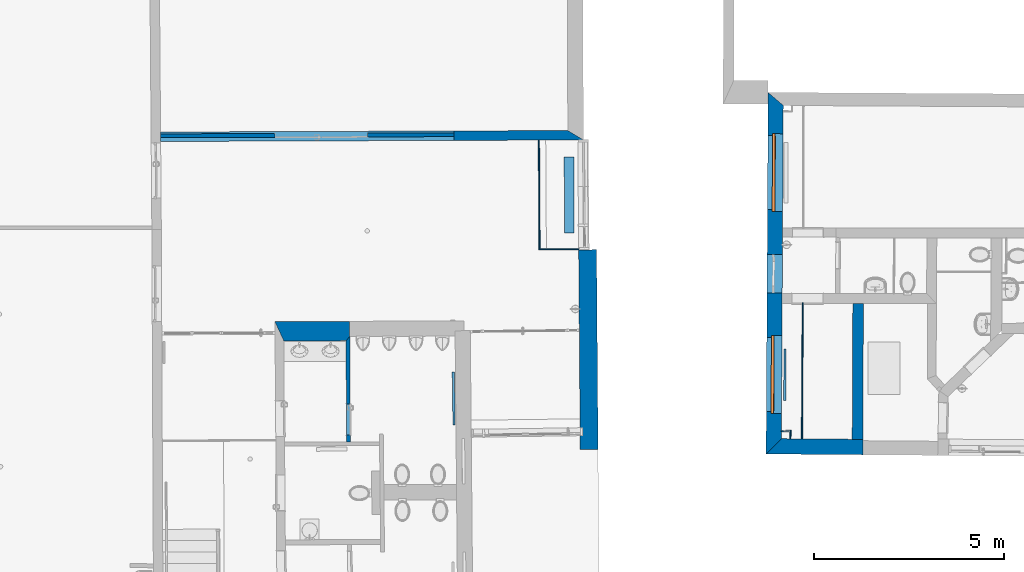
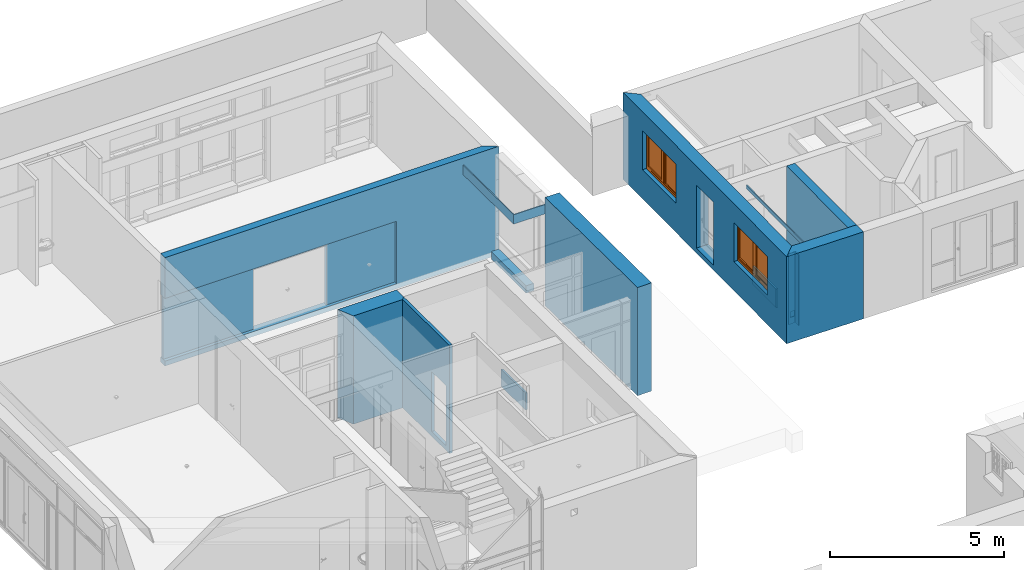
# One storey, part 33 of 196: 16 walls, 2 proxies, 7 openings.
"""IFC2X3 building model written with IfcOpenShell, lengths in metres."""

from ifc_helpers import new_model, entity, si_unit, converted_unit, derived_unit, money_unit, direction, frame, origin_with_axes, origin_2d_with_axis, place, context, subcontext, project, spatial, polyline, rectangle, outline, extrude, faceted_brep, source, transform, mapped, material, layer, layer_set, layer_usage, type_object, element, fill, save


model = new_model("IFC2X3")

# Units and contexts
model_context = context("Model", 3, precision=1e-05, world=origin_with_axes(), true_north=direction((0.0, 1.0)))
body_context = subcontext(model_context, "Body", "Model", "MODEL_VIEW")
ifc_project = project(units=[si_unit("LENGTHUNIT", "METRE"), si_unit("AREAUNIT", "SQUARE_METRE"), si_unit("VOLUMEUNIT", "CUBIC_METRE"), converted_unit("PLANEANGLEUNIT", "DEGREE", entity("IfcPlaneAngleMeasure", 0.0174532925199), si_unit("PLANEANGLEUNIT", "RADIAN"), dimensions=[0, 0, 0, 0, 0, 0, 0]), money_unit("EUR"), converted_unit("TIMEUNIT", "Year", entity("IfcTimeMeasure", 31556926.0), si_unit("TIMEUNIT", "SECOND"), dimensions=[0, 0, 1, 0, 0, 0, 0]), si_unit("MASSUNIT", "GRAM", prefix="KILO"), si_unit("THERMODYNAMICTEMPERATUREUNIT", "DEGREE_CELSIUS"), si_unit("LUMINOUSINTENSITYUNIT", "LUMEN"), si_unit("ENERGYUNIT", "JOULE", prefix="MEGA"), derived_unit("THERMALCONDUCTANCEUNIT", [(si_unit("POWERUNIT", "WATT"), 1), (si_unit("LENGTHUNIT", "METRE"), -1), (si_unit("THERMODYNAMICTEMPERATUREUNIT", "KELVIN"), -1)]), derived_unit("SPECIFICHEATCAPACITYUNIT", [(si_unit("ENERGYUNIT", "JOULE"), 1), (si_unit("MASSUNIT", "GRAM", prefix="KILO"), -1), (si_unit("THERMODYNAMICTEMPERATUREUNIT", "KELVIN"), -1)]), derived_unit("MASSDENSITYUNIT", [(si_unit("MASSUNIT", "GRAM", prefix="KILO"), 1), (si_unit("VOLUMEUNIT", "CUBIC_METRE"), -1)])], contexts=[model_context])

# Site, building, storey
site_placement = place(None, origin_with_axes())
site = spatial("IfcSite", under=ifc_project, at=site_placement, Name="Gelände", CompositionType="ELEMENT")
building_placement = place(site_placement, origin_with_axes())
building = spatial("IfcBuilding", under=site, at=building_placement, Name="Gebäude", CompositionType="ELEMENT")
storey_placement = place(building_placement, frame((0.0, 0.0, -3.0), z_axis=(0.0, 0.0, 1.0), x_axis=(1.0, 0.0, 0.0)))
storey = spatial("IfcBuildingStorey", under=building, at=storey_placement, Name="KELLERGESCHOSS", CompositionType="ELEMENT", Elevation=-3.0)

# Wall
ifc_material_1 = material(Name="05_ALLGEMEIN - TRAGENDE BAUTEILE")
ifc_layer_1 = layer(ifc_material_1, 0.47, ventilated="UNKNOWN")
ifc_layer_set_1 = layer_set([ifc_layer_1], Name="05_ALLGEMEIN - TRAGENDE BAUTEILE 0.47")
ifc_layer_usage_1 = layer_usage(ifc_layer_set_1, "AXIS2", "NEGATIVE", 0.47)
wall_type_1 = type_object("IfcWallType", Name="05_ALLGEMEIN - TRAGENDE BAUTEILE 470", PredefinedType="ELEMENTEDWALL")
wall_1_placement = place(storey_placement, frame((-15.2198299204, 39.2119687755, 0.25), z_axis=(0.0, 0.0, 1.0), x_axis=(-0.00771703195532, 0.999970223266, 0.0)))
element("IfcWallStandardCase", 1, at=wall_1_placement, inside=storey, type_object=wall_type_1, material=ifc_layer_usage_1, Name="Wand-030", ObjectType="ELEMENTEDWALL", context=body_context, shape_type="SweptSolid", body=[
    extrude(outline(polyline([(0.0, 0.0), (5.25333441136, 0.0), (5.25333441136, 0.47), (0.0, 0.47), (0.0, 0.0)])), origin_with_axes(), (0.0, 0.0, 1.0), 3.81),
])

# Wall, openings, proxies
ifc_layer_2 = layer(ifc_material_1, 0.4, ventilated="UNKNOWN")
ifc_layer_set_2 = layer_set([ifc_layer_2], Name="05_ALLGEMEIN - TRAGENDE BAUTEILE 0.4")
ifc_layer_usage_2 = layer_usage(ifc_layer_set_2, "AXIS2", "NEGATIVE", 0.4)
wall_type_2 = type_object("IfcWallType", Name="05_ALLGEMEIN - TRAGENDE BAUTEILE 400", PredefinedType="ELEMENTEDWALL")
wall_2_placement = place(storey_placement, frame((-10.7453683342, 48.2641429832, 0.44), z_axis=(0.0, 0.0, 1.0), x_axis=(-0.00559462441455, -0.999984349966, 0.0)))
wall_2 = element("IfcWallStandardCase", 2, at=wall_2_placement, inside=storey, type_object=wall_type_2, material=ifc_layer_usage_2, Name="Wand-030", ObjectType="ELEMENTEDWALL", context=body_context, shape_type="SweptSolid", body=[
    extrude(outline(polyline([(-0.340000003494, 0.0), (9.17505866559, 0.0), (8.7711165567, 0.4), (5.73473201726e-05, 0.4), (-0.340000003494, 0.0)])), origin_with_axes(), (0.0, 0.0, 1.0), 3.06),
])
opening_1_placement = place(wall_2_placement, frame((7.08337725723, 0.0, 1.02522516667), z_axis=(0.0, 0.0, 1.0), x_axis=(1.0, 0.0, 0.0)))
opening_1 = element("IfcOpeningElement", 3, at=opening_1_placement, cuts=wall_2, Name="Fenster-016", context=body_context, shape_type="SweptSolid", body=[
    extrude(rectangle(XDim=2.04862552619, YDim=1.417031, at=origin_2d_with_axis()), frame((0.0, 0.121848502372, 0.7085155), z_axis=(0.0, -1.0, 0.0), x_axis=(1.0, 0.0, 0.0)), (0.0, 0.0, -1.0), 0.678151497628),
    extrude(rectangle(XDim=1.94862552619, YDim=1.367031, at=origin_2d_with_axis()), frame((0.0, 0.121848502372, 0.6835155), z_axis=(0.0, 1.0, 0.0), x_axis=(1.0, 0.0, 0.0)), (0.0, 0.0, -1.0), 0.521848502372),
])
opening_2_placement = place(wall_2_placement, frame((1.76929638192, 0.0, 1.02522516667), z_axis=(0.0, 0.0, 1.0), x_axis=(1.0, 0.0, 0.0)))
opening_2 = element("IfcOpeningElement", 4, at=opening_2_placement, cuts=wall_2, Name="Fenster-016", context=body_context, shape_type="SweptSolid", body=[
    extrude(rectangle(XDim=2.04862552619, YDim=1.417031, at=origin_2d_with_axis()), frame((0.0, 0.121848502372, 0.7085155), z_axis=(0.0, -1.0, 0.0), x_axis=(1.0, 0.0, 0.0)), (0.0, 0.0, -1.0), 0.678151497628),
    extrude(rectangle(XDim=1.94862552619, YDim=1.367031, at=origin_2d_with_axis()), frame((0.0, 0.121848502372, 0.6835155), z_axis=(0.0, 1.0, 0.0), x_axis=(1.0, 0.0, 0.0)), (0.0, 0.0, -1.0), 0.521848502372),
])
opening_3_placement = place(wall_2_placement, frame((4.42710408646, 0.0, 0.17), z_axis=(0.0, 0.0, 1.0), x_axis=(1.0, 0.0, 0.0)))
element("IfcOpeningElement", 5, at=opening_3_placement, cuts=wall_2, Name="Tür-022", context=body_context, shape_type="SweptSolid", body=[
    extrude(rectangle(XDim=1.00943520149, YDim=2.22532316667, at=origin_2d_with_axis()), frame((0.0, 0.13, 1.11266158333), z_axis=(0.0, -1.0, 0.0), x_axis=(1.0, 0.0, 0.0)), (0.0, 0.0, -1.0), 0.67),
    extrude(rectangle(XDim=1.00943520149, YDim=2.22532316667, at=origin_2d_with_axis()), frame((0.0, 0.13, 1.11266158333), z_axis=(0.0, 1.0, 0.0), x_axis=(1.0, 0.0, 0.0)), (0.0, 0.0, -1.0), 0.53),
])
building_element_proxy_type = type_object("IfcBuildingElementProxyType", Name="2-Flügelfenster 1+1 25", PredefinedType="NOTDEFINED")
shared_shape = source(origin_with_axes(), body_context, "Body", "Brep", [
    faceted_brep([(-1.0243127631, -0.07, 0.0), (-1.0243127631, 0.0, 0.0), (-0.944312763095, 0.0, 0.08), (-0.944312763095, -0.07, 0.08), (-1.0243127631, -0.07, 1.417031), (-1.0243127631, 0.0, 1.417031), (-0.944312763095, 0.0, 1.337031), (-0.944312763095, -0.07, 1.337031)], [[[0, 1, 2, 3]], [[4, 5, 1, 0]], [[1, 5, 6, 2]], [[3, 2, 6, 7]], [[0, 3, 7, 4]], [[7, 6, 5, 4]]]),
    faceted_brep([(1.0243127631, -0.07, 0.0), (1.0243127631, 0.0, 0.0), (1.0243127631, 0.0, 1.417031), (1.0243127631, -0.07, 1.417031), (0.944312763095, -0.07, 0.08), (0.944312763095, 0.0, 0.08), (0.944312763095, 0.0, 1.337031), (0.944312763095, -0.07, 1.337031)], [[[0, 1, 2, 3]], [[4, 5, 1, 0]], [[1, 5, 6, 2]], [[3, 2, 6, 7]], [[0, 3, 7, 4]], [[7, 6, 5, 4]]]),
    faceted_brep([(-1.0243127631, -0.07, 0.0), (-1.0243127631, 0.0, 0.0), (1.0243127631, 0.0, 0.0), (1.0243127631, -0.07, 0.0), (-0.944312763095, -0.07, 0.08), (-0.944312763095, 0.0, 0.08), (-0.04, 0.0, 0.08), (0.04, 0.0, 0.08), (0.944312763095, 0.0, 0.08), (0.944312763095, -0.07, 0.08), (0.04, -0.07, 0.08), (-0.04, -0.07, 0.08)], [[[0, 1, 2, 3]], [[4, 5, 1, 0]], [[1, 5, 6, 7, 8, 2]], [[3, 2, 8, 9]], [[0, 3, 9, 10, 11, 4]], [[11, 6, 5, 4]], [[10, 7, 6, 11]], [[9, 8, 7, 10]]]),
    faceted_brep([(-1.0243127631, -0.07, 1.417031), (-1.0243127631, 0.0, 1.417031), (-0.944312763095, 0.0, 1.337031), (-0.944312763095, -0.07, 1.337031), (1.0243127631, -0.07, 1.417031), (1.0243127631, 0.0, 1.417031), (0.944312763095, 0.0, 1.337031), (0.04, 0.0, 1.337031), (-0.04, 0.0, 1.337031), (-0.04, -0.07, 1.337031), (0.04, -0.07, 1.337031), (0.944312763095, -0.07, 1.337031)], [[[0, 1, 2, 3]], [[4, 5, 1, 0]], [[1, 5, 6, 7, 8, 2]], [[3, 2, 8, 9]], [[0, 3, 9, 10, 11, 4]], [[11, 6, 5, 4]], [[10, 7, 6, 11]], [[9, 8, 7, 10]]]),
    faceted_brep([(-0.04, -0.07, 0.08), (-0.04, 0.0, 0.08), (0.04, 0.0, 0.08), (0.04, -0.07, 0.08), (-0.04, -0.07, 1.337031), (-0.04, 0.0, 1.337031), (0.04, 0.0, 1.337031), (0.04, -0.07, 1.337031)], [[[0, 1, 2, 3]], [[4, 5, 1, 0]], [[1, 5, 6, 2]], [[3, 2, 6, 7]], [[0, 3, 7, 4]], [[7, 6, 5, 4]]]),
    faceted_brep([(-0.964312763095, 0.0, 0.06), (-0.964312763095, 0.005, 0.06), (-0.884312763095, 0.005, 0.14), (-0.884312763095, 0.0, 0.14), (-0.964312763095, 0.0, 1.357031), (-0.964312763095, 0.005, 1.357031), (-0.884312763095, 0.005, 1.277031), (-0.884312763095, 0.0, 1.277031)], [[[0, 1, 2, 3]], [[4, 5, 1, 0]], [[1, 5, 6, 2]], [[3, 2, 6, 7]], [[0, 3, 7, 4]], [[7, 6, 5, 4]]]),
    faceted_brep([(-0.02, 0.0, 0.06), (-0.1, 0.0, 0.14), (-0.1, 0.005, 0.14), (-0.02, 0.005, 0.06), (-0.02, 0.0, 1.357031), (-0.1, 0.0, 1.277031), (-0.1, 0.005, 1.277031), (-0.02, 0.005, 1.357031)], [[[0, 1, 2, 3]], [[0, 4, 5, 1]], [[1, 5, 6, 2]], [[3, 2, 6, 7]], [[4, 0, 3, 7]], [[5, 4, 7, 6]]]),
    faceted_brep([(-0.964312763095, 0.0, 0.06), (-0.964312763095, 0.005, 0.06), (-0.02, 0.005, 0.06), (-0.02, 0.0, 0.06), (-0.884312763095, 0.0, 0.14), (-0.884312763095, 0.005, 0.14), (-0.1, 0.005, 0.14), (-0.1, 0.0, 0.14)], [[[0, 1, 2, 3]], [[4, 5, 1, 0]], [[1, 5, 6, 2]], [[3, 2, 6, 7]], [[0, 3, 7, 4]], [[7, 6, 5, 4]]]),
    faceted_brep([(-0.964312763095, 0.0, 1.357031), (-0.02, 0.0, 1.357031), (-0.02, 0.005, 1.357031), (-0.964312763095, 0.005, 1.357031), (-0.884312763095, 0.0, 1.277031), (-0.1, 0.0, 1.277031), (-0.1, 0.005, 1.277031), (-0.884312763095, 0.005, 1.277031)], [[[0, 1, 2, 3]], [[0, 4, 5, 1]], [[1, 5, 6, 2]], [[3, 2, 6, 7]], [[4, 0, 3, 7]], [[5, 4, 7, 6]]]),
    faceted_brep([(-0.944312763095, -0.065, 0.08), (-0.944312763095, 0.0, 0.08), (-0.884312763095, 0.0, 0.14), (-0.884312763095, -0.065, 0.14), (-0.944312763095, -0.065, 1.337031), (-0.944312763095, 0.0, 1.337031), (-0.884312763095, 0.0, 1.277031), (-0.884312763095, -0.065, 1.277031)], [[[0, 1, 2, 3]], [[4, 5, 1, 0]], [[1, 5, 6, 2]], [[3, 2, 6, 7]], [[0, 3, 7, 4]], [[7, 6, 5, 4]]]),
    faceted_brep([(-0.04, -0.065, 0.08), (-0.1, -0.065, 0.14), (-0.1, 0.0, 0.14), (-0.04, 0.0, 0.08), (-0.04, -0.065, 1.337031), (-0.1, -0.065, 1.277031), (-0.1, 0.0, 1.277031), (-0.04, 0.0, 1.337031)], [[[0, 1, 2, 3]], [[0, 4, 5, 1]], [[1, 5, 6, 2]], [[3, 2, 6, 7]], [[4, 0, 3, 7]], [[5, 4, 7, 6]]]),
    faceted_brep([(-0.944312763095, -0.065, 0.08), (-0.944312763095, 0.0, 0.08), (-0.04, 0.0, 0.08), (-0.04, -0.065, 0.08), (-0.884312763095, -0.065, 0.14), (-0.884312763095, 0.0, 0.14), (-0.1, 0.0, 0.14), (-0.1, -0.065, 0.14)], [[[0, 1, 2, 3]], [[4, 5, 1, 0]], [[1, 5, 6, 2]], [[3, 2, 6, 7]], [[0, 3, 7, 4]], [[7, 6, 5, 4]]]),
    faceted_brep([(-0.944312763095, -0.065, 1.337031), (-0.04, -0.065, 1.337031), (-0.04, 0.0, 1.337031), (-0.944312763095, 0.0, 1.337031), (-0.884312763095, -0.065, 1.277031), (-0.1, -0.065, 1.277031), (-0.1, 0.0, 1.277031), (-0.884312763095, 0.0, 1.277031)], [[[0, 1, 2, 3]], [[0, 4, 5, 1]], [[1, 5, 6, 2]], [[3, 2, 6, 7]], [[4, 0, 3, 7]], [[5, 4, 7, 6]]]),
    faceted_brep([(-0.884312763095, -0.035, 0.14), (-0.884312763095, -0.025, 0.14), (-0.1, -0.025, 0.14), (-0.1, -0.035, 0.14), (-0.884312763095, -0.035, 1.277031), (-0.884312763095, -0.025, 1.277031), (-0.1, -0.025, 1.277031), (-0.1, -0.035, 1.277031)], [[[0, 1, 2, 3]], [[4, 5, 1, 0]], [[1, 5, 6, 2]], [[3, 2, 6, 7]], [[0, 3, 7, 4]], [[7, 6, 5, 4]]]),
    faceted_brep([(0.02, 0.0, 0.06), (0.02, 0.005, 0.06), (0.1, 0.005, 0.14), (0.1, 0.0, 0.14), (0.02, 0.0, 1.357031), (0.02, 0.005, 1.357031), (0.1, 0.005, 1.277031), (0.1, 0.0, 1.277031)], [[[0, 1, 2, 3]], [[4, 5, 1, 0]], [[1, 5, 6, 2]], [[3, 2, 6, 7]], [[0, 3, 7, 4]], [[7, 6, 5, 4]]]),
    faceted_brep([(0.964312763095, 0.0, 0.06), (0.884312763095, 0.0, 0.14), (0.884312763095, 0.005, 0.14), (0.964312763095, 0.005, 0.06), (0.964312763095, 0.0, 1.357031), (0.884312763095, 0.0, 1.277031), (0.884312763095, 0.005, 1.277031), (0.964312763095, 0.005, 1.357031)], [[[0, 1, 2, 3]], [[0, 4, 5, 1]], [[1, 5, 6, 2]], [[3, 2, 6, 7]], [[4, 0, 3, 7]], [[5, 4, 7, 6]]]),
    faceted_brep([(0.02, 0.0, 0.06), (0.02, 0.005, 0.06), (0.964312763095, 0.005, 0.06), (0.964312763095, 0.0, 0.06), (0.1, 0.0, 0.14), (0.1, 0.005, 0.14), (0.884312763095, 0.005, 0.14), (0.884312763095, 0.0, 0.14)], [[[0, 1, 2, 3]], [[4, 5, 1, 0]], [[1, 5, 6, 2]], [[3, 2, 6, 7]], [[0, 3, 7, 4]], [[7, 6, 5, 4]]]),
    faceted_brep([(0.02, 0.0, 1.357031), (0.964312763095, 0.0, 1.357031), (0.964312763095, 0.005, 1.357031), (0.02, 0.005, 1.357031), (0.1, 0.0, 1.277031), (0.884312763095, 0.0, 1.277031), (0.884312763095, 0.005, 1.277031), (0.1, 0.005, 1.277031)], [[[0, 1, 2, 3]], [[0, 4, 5, 1]], [[1, 5, 6, 2]], [[3, 2, 6, 7]], [[4, 0, 3, 7]], [[5, 4, 7, 6]]]),
    faceted_brep([(0.04, -0.065, 0.08), (0.04, 0.0, 0.08), (0.1, 0.0, 0.14), (0.1, -0.065, 0.14), (0.04, -0.065, 1.337031), (0.04, 0.0, 1.337031), (0.1, 0.0, 1.277031), (0.1, -0.065, 1.277031)], [[[0, 1, 2, 3]], [[4, 5, 1, 0]], [[1, 5, 6, 2]], [[3, 2, 6, 7]], [[0, 3, 7, 4]], [[7, 6, 5, 4]]]),
    faceted_brep([(0.944312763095, -0.065, 0.08), (0.884312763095, -0.065, 0.14), (0.884312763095, 0.0, 0.14), (0.944312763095, 0.0, 0.08), (0.944312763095, -0.065, 1.337031), (0.884312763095, -0.065, 1.277031), (0.884312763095, 0.0, 1.277031), (0.944312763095, 0.0, 1.337031)], [[[0, 1, 2, 3]], [[0, 4, 5, 1]], [[1, 5, 6, 2]], [[3, 2, 6, 7]], [[4, 0, 3, 7]], [[5, 4, 7, 6]]]),
    faceted_brep([(0.04, -0.065, 0.08), (0.04, 0.0, 0.08), (0.944312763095, 0.0, 0.08), (0.944312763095, -0.065, 0.08), (0.1, -0.065, 0.14), (0.1, 0.0, 0.14), (0.884312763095, 0.0, 0.14), (0.884312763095, -0.065, 0.14)], [[[0, 1, 2, 3]], [[4, 5, 1, 0]], [[1, 5, 6, 2]], [[3, 2, 6, 7]], [[0, 3, 7, 4]], [[7, 6, 5, 4]]]),
    faceted_brep([(0.04, -0.065, 1.337031), (0.944312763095, -0.065, 1.337031), (0.944312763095, 0.0, 1.337031), (0.04, 0.0, 1.337031), (0.1, -0.065, 1.277031), (0.884312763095, -0.065, 1.277031), (0.884312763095, 0.0, 1.277031), (0.1, 0.0, 1.277031)], [[[0, 1, 2, 3]], [[0, 4, 5, 1]], [[1, 5, 6, 2]], [[3, 2, 6, 7]], [[4, 0, 3, 7]], [[5, 4, 7, 6]]]),
    faceted_brep([(0.1, -0.035, 0.14), (0.1, -0.025, 0.14), (0.884312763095, -0.025, 0.14), (0.884312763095, -0.035, 0.14), (0.1, -0.035, 1.277031), (0.1, -0.025, 1.277031), (0.884312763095, -0.025, 1.277031), (0.884312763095, -0.035, 1.277031)], [[[0, 1, 2, 3]], [[4, 5, 1, 0]], [[1, 5, 6, 2]], [[3, 2, 6, 7]], [[0, 3, 7, 4]], [[7, 6, 5, 4]]]),
])
proxy_1_placement = place(opening_1_placement, frame((-1.0243127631, 0.0, 0.0), z_axis=(0.0, 0.0, 1.0), x_axis=(1.0, 0.0, 0.0)))
proxy_1 = element("IfcBuildingElementProxy", 6, at=proxy_1_placement, inside=storey, type_object=building_element_proxy_type, Name="Fenster-016", context=body_context, shape_type="MappedRepresentation", body=[
    mapped(shared_shape, transform((1.0243127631, 0.191848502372, 0.0))),
])
fill(opening_1, proxy_1)
proxy_2_placement = place(opening_2_placement, frame((-1.0243127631, 0.0, 0.0), z_axis=(0.0, 0.0, 1.0), x_axis=(1.0, 0.0, 0.0)))
proxy_2 = element("IfcBuildingElementProxy", 7, at=proxy_2_placement, inside=storey, type_object=building_element_proxy_type, Name="Fenster-016", context=body_context, shape_type="MappedRepresentation", body=[
    mapped(shared_shape, transform((1.0243127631, 0.191848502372, 0.0))),
])
fill(opening_2, proxy_2)

# Wall, opening
ifc_layer_3 = layer(ifc_material_1, 0.1, ventilated="UNKNOWN")
ifc_layer_set_3 = layer_set([ifc_layer_3], Name="05_ALLGEMEIN - TRAGENDE BAUTEILE 0.1")
ifc_layer_usage_3 = layer_usage(ifc_layer_set_3, "AXIS2", "POSITIVE", -0.1)
wall_type_3 = type_object("IfcWallType", Name="05_ALLGEMEIN - TRAGENDE BAUTEILE 100", PredefinedType="ELEMENTEDWALL")
wall_3_placement = place(storey_placement, frame((-21.7581002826, 42.5799802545, 0.25), z_axis=(0.0, 0.0, 1.0), x_axis=(0.00659304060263, -0.999978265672, 0.0)))
wall_3 = element("IfcWallStandardCase", 8, at=wall_3_placement, inside=storey, type_object=wall_type_3, material=ifc_layer_usage_3, Name="Wand-030", ObjectType="ELEMENTEDWALL", context=body_context, shape_type="SweptSolid", body=[
    extrude(outline(polyline([(0.509719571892, -0.1), (3.17271197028, -0.1), (3.17294502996, 0.0), (0.400001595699, 0.0), (0.509719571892, -0.1)])), origin_with_axes(), (0.0, 0.0, 1.0), 3.81),
])
opening_4_placement = place(wall_3_placement, frame((2.58318884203, 0.0, 0.17), z_axis=(0.0, 0.0, 1.0), x_axis=(1.0, 0.0, 0.0)))
element("IfcOpeningElement", 9, at=opening_4_placement, cuts=wall_3, Name="Tür-022", context=body_context, shape_type="SweptSolid", body=[
    extrude(rectangle(XDim=0.823325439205, YDim=2.10265277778, at=origin_2d_with_axis()), frame((0.0, 0.1, 1.05132638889), z_axis=(0.0, -1.0, 0.0), x_axis=(1.0, 0.0, 0.0)), (0.0, 0.0, 1.0), 0.3),
])

# Walls
ifc_layer_4 = layer(ifc_material_1, 0.28, ventilated="UNKNOWN")
ifc_layer_set_4 = layer_set([ifc_layer_4], Name="05_ALLGEMEIN - TRAGENDE BAUTEILE 0.28")
ifc_layer_usage_4 = layer_usage(ifc_layer_set_4, "AXIS2", "NEGATIVE", 0.28)
wall_type_4 = type_object("IfcWallType", Name="05_ALLGEMEIN - TRAGENDE BAUTEILE 280", PredefinedType="ELEMENTEDWALL")
wall_4_placement = place(storey_placement, frame((-8.25294138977, 39.0682594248, 0.44), z_axis=(0.0, 0.0, 1.0), x_axis=(0.00436352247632, 0.99999047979, 0.0)))
element("IfcWallStandardCase", 10, at=wall_4_placement, inside=storey, type_object=wall_type_4, material=ifc_layer_usage_4, Name="Wand-031", ObjectType="ELEMENTEDWALL", context=body_context, shape_type="SweptSolid", body=[
    extrude(outline(polyline([(0.405003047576, 0.0), (3.97817324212, 0.0), (3.97719941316, 0.28), (0.406089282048, 0.28), (0.405003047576, 0.0)])), origin_with_axes(), (0.0, 0.0, 1.0), 3.06),
])
ifc_layer_5 = layer(ifc_material_1, 0.51, ventilated="UNKNOWN")
ifc_layer_set_5 = layer_set([ifc_layer_5], Name="05_ALLGEMEIN - TRAGENDE BAUTEILE 0.51")
ifc_layer_usage_5 = layer_usage(ifc_layer_set_5, "AXIS2", "POSITIVE", -0.51)
wall_type_5 = type_object("IfcWallType", Name="05_ALLGEMEIN - TRAGENDE BAUTEILE 510", PredefinedType="ELEMENTEDWALL")
wall_5_placement = place(storey_placement, frame((-23.7249335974, 42.5725682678, 0.25), z_axis=(0.0, 0.0, 1.0), x_axis=(0.999992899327, 0.00376846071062, 0.0)))
element("IfcWallStandardCase", 11, at=wall_5_placement, inside=storey, type_object=wall_type_5, material=ifc_layer_usage_5, Name="Wand-030", ObjectType="ELEMENTEDWALL", context=body_context, shape_type="SweptSolid", body=[
    extrude(outline(polyline([(0.231834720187, -0.51), (1.96684728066, -0.51), (1.96684728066, 0.0), (0.0, 0.0), (0.231834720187, -0.51)])), origin_with_axes(), (0.0, 0.0, 1.0), 3.81),
])
ifc_layer_6 = layer(ifc_material_1, 0.405, ventilated="UNKNOWN")
ifc_layer_set_6 = layer_set([ifc_layer_6], Name="05_ALLGEMEIN - TRAGENDE BAUTEILE 0.405")
ifc_layer_usage_6 = layer_usage(ifc_layer_set_6, "AXIS2", "NEGATIVE", 0.405)
wall_type_6 = type_object("IfcWallType", Name="05_ALLGEMEIN - TRAGENDE BAUTEILE 405", PredefinedType="ELEMENTEDWALL")
wall_6_placement = place(storey_placement, frame((-10.7966993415, 39.0892279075, 0.44), z_axis=(0.0, 0.0, 1.0), x_axis=(0.99996602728, -0.0082428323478, 0.0)))
element("IfcWallStandardCase", 12, at=wall_6_placement, inside=storey, type_object=wall_type_6, material=ifc_layer_usage_6, Name="Wand-031", ObjectType="ELEMENTEDWALL", context=body_context, shape_type="SweptSolid", body=[
    extrude(outline(polyline([(0.0, 0.0), (2.54384437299, 0.0), (2.54384437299, 0.405), (0.398928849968, 0.405), (0.0, 0.0)])), origin_with_axes(), (0.0, 0.0, 1.0), 3.06),
])

# Wall, opening
ifc_layer_7 = layer(ifc_material_1, 0.250000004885, ventilated="UNKNOWN")
ifc_layer_set_7 = layer_set([ifc_layer_7], Name="05_ALLGEMEIN - TRAGENDE BAUTEILE 0.25")
ifc_layer_usage_7 = layer_usage(ifc_layer_set_7, "AXIS2", "NEGATIVE", 0.25)
wall_type_7 = type_object("IfcWallType", Name="05_ALLGEMEIN - TRAGENDE BAUTEILE 250", PredefinedType="ELEMENTEDWALL")
wall_7_placement = place(storey_placement, frame((-26.7330656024, 47.3135233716, 0.25), z_axis=(0.0, 0.0, 1.0), x_axis=(0.999993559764, 0.00358893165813, 0.0)))
wall_7 = element("IfcWallStandardCase", 13, at=wall_7_placement, inside=storey, type_object=wall_type_7, material=ifc_layer_usage_7, Name="Wand-030", ObjectType="ELEMENTEDWALL", context=body_context, shape_type="SweptSolid", body=[
    extrude(outline(polyline([(0.0, 0.0), (11.1297366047, 0.0), (10.7194595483, 0.25), (-0.00104692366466, 0.25), (0.0, 0.0)])), origin_with_axes(), (0.0, 0.0, 1.0), 3.81),
])
opening_5_placement = place(wall_7_placement, frame((3.86102501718, 0.0, 0.17), z_axis=(0.0, 0.0, 1.0), x_axis=(1.0, 0.0, 0.0)))
element("IfcOpeningElement", 14, at=opening_5_placement, cuts=wall_7, Name="Tür-022", context=body_context, shape_type="SweptSolid", body=[
    extrude(rectangle(XDim=7.72414388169, YDim=2.20534611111, at=origin_2d_with_axis()), frame((0.0, 0.193040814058, 1.10267305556), z_axis=(0.0, -1.0, 0.0), x_axis=(-1.0, 0.0, 0.0)), (0.0, 0.0, 1.0), 0.443040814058),
    extrude(rectangle(XDim=7.72414388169, YDim=2.20534611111, at=origin_2d_with_axis()), frame((0.0, 0.193040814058, 1.10267305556), z_axis=(0.0, 1.0, 0.0), x_axis=(-1.0, 0.0, 0.0)), (0.0, 0.0, 1.0), 0.306959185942),
])

ifc_material_2 = material(Name="43_Gipskarton")
ifc_layer_8 = layer(ifc_material_2, 0.03, ventilated="UNKNOWN")
ifc_layer_set_8 = layer_set([ifc_layer_8], Name="43_Gipskarton 0.03")
ifc_layer_usage_8 = layer_usage(ifc_layer_set_8, "AXIS2", "NEGATIVE", 0.0)
wall_type_8 = type_object("IfcWallType", Name="43_Gipskarton 30", PredefinedType="ELEMENTEDWALL")
wall_8_placement = place(storey_placement, frame((-10.7933555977, 39.6868893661, 0.61), z_axis=(0.0, 0.0, 1.0), x_axis=(0.999245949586, 0.0388269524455, 0.0)))
wall_8 = element("IfcWallStandardCase", 15, at=wall_8_placement, inside=storey, type_object=wall_type_8, material=ifc_layer_usage_8, Name="Wand-031", ObjectType="ELEMENTEDWALL", context=body_context, shape_type="SweptSolid", body=[
    extrude(outline(polyline([(0.399061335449, -0.03), (0.624877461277, -0.03), (0.657069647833, 0.0), (0.400395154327, 0.0), (0.399061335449, -0.03)])), origin_with_axes(), (0.0, 0.0, 1.0), 2.49),
])
opening_6_placement = place(wall_8_placement, frame((0.530120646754, 0.0, 0.237179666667), z_axis=(0.0, 0.0, 1.0), x_axis=(1.0, 0.0, 0.0)))
element("IfcOpeningElement", 16, at=opening_6_placement, cuts=wall_8, Name="Tür-022", context=body_context, shape_type="SweptSolid", body=[
    extrude(rectangle(XDim=0.147571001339, YDim=0.196508, at=origin_2d_with_axis()), frame((0.0, 0.03, 0.098254), z_axis=(0.0, -1.0, 0.0), x_axis=(1.0, 0.0, 0.0)), (0.0, 0.0, 1.0), 0.09),
])

# Walls
ifc_layer_usage_9 = layer_usage(ifc_layer_set_8, "AXIS2", "NEGATIVE", 0.0)
wall_9_placement = place(storey_placement, frame((-10.1367814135, 39.712401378, 0.61), z_axis=(0.0, 0.0, 1.0), x_axis=(-0.0316260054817, -0.999499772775, 0.0)))
element("IfcWallStandardCase", 17, at=wall_9_placement, inside=storey, type_object=wall_type_8, material=ifc_layer_usage_9, Name="Wand-032", ObjectType="ELEMENTEDWALL", context=body_context, shape_type="SweptSolid", body=[
    extrude(outline(polyline([(0.0321921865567, -0.03), (0.224354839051, -0.03), (0.223653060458, 0.0), (0.0, 0.0), (0.0321921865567, -0.03)])), origin_with_axes(), (0.0, 0.0, 1.0), 2.49),
])
ifc_layer_usage_10 = layer_usage(ifc_layer_set_8, "AXIS2", "NEGATIVE", 0.0)
wall_10_placement = place(storey_placement, frame((-15.2603249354, 44.4592982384, 3.48), z_axis=(0.0, 0.0, 1.0), x_axis=(-0.999988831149, 0.00472626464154, 0.0)))
element("IfcWallStandardCase", 18, at=wall_10_placement, inside=storey, type_object=wall_type_8, material=ifc_layer_usage_10, Name="Wand-048", ObjectType="ELEMENTEDWALL", context=body_context, shape_type="SweptSolid", body=[
    extrude(outline(polyline([(0.470409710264, -0.03), (1.48521150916, -0.03), (1.51488928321, 0.0), (0.470036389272, 0.0), (0.470409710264, -0.03)])), origin_with_axes(), (0.0, 0.0, 1.0), 0.33),
])
ifc_layer_usage_11 = layer_usage(ifc_layer_set_8, "AXIS2", "NEGATIVE", 0.0)
wall_11_placement = place(storey_placement, frame((-16.775197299, 44.466458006, 3.48), z_axis=(0.0, 0.0, 1.0), x_axis=(-0.00607243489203, 0.999981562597, 0.0)))
element("IfcWallStandardCase", 19, at=wall_11_placement, inside=storey, type_object=wall_type_8, material=ifc_layer_usage_11, Name="Wand-049", ObjectType="ELEMENTEDWALL", context=body_context, shape_type="SweptSolid", body=[
    extrude(outline(polyline([(0.0296777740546, -0.03), (2.88271952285, -0.03), (2.88279402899, 0.0), (0.0, 0.0), (0.0296777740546, -0.03)])), origin_with_axes(), (0.0, 0.0, 1.0), 0.33),
])
ifc_layer_usage_12 = layer_usage(ifc_layer_set_8, "AXIS2", "NEGATIVE", 0.0)
wall_12_placement = place(storey_placement, frame((-9.81729989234, 43.0750249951, 3.16), z_axis=(0.0, 0.0, 1.0), x_axis=(-0.00605816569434, -0.999981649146, 0.0)))
element("IfcWallStandardCase", 20, at=wall_12_placement, inside=storey, type_object=wall_type_8, material=ifc_layer_usage_12, Name="Wand-049", ObjectType="ELEMENTEDWALL", context=body_context, shape_type="SweptSolid", body=[
    extrude(outline(polyline([(0.0, -0.03), (3.58874326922, -0.03), (3.58874326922, 0.0), (0.0, 0.0), (0.0, -0.03)])), origin_with_axes(), (0.0, 0.0, 1.0), 0.13),
])

# Wall, opening
ifc_layer_9 = layer(ifc_material_2, 0.1, ventilated="UNKNOWN")
ifc_layer_set_9 = layer_set([ifc_layer_9], Name="43_Gipskarton 0.1")
ifc_layer_usage_13 = layer_usage(ifc_layer_set_9, "AXIS2", "NEGATIVE", 0.1)
wall_type_9 = type_object("IfcWallType", Name="43_Gipskarton 100", PredefinedType="ELEMENTEDWALL")
wall_13_placement = place(storey_placement, frame((-19.0107361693, 47.5412397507, 0.423742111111), z_axis=(0.0, 0.0, 1.0), x_axis=(-0.999993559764, -0.00358893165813, 0.0)))
wall_13 = element("IfcWallStandardCase", 21, at=wall_13_placement, inside=storey, type_object=wall_type_9, material=ifc_layer_usage_13, Name="Wand-030", ObjectType="ELEMENTEDWALL", context=body_context, shape_type="SweptSolid", body=[
    extrude(outline(polyline([(0.0, 0.0), (7.72393449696, 0.0), (7.72351572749, 0.1), (0.0, 0.1), (0.0, 0.0)])), origin_with_axes(), (0.0, 0.0, 1.0), 2.201604),
])
opening_7_placement = place(wall_13_placement, frame((3.49539892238, 0.0, 0.0), z_axis=(0.0, 0.0, 1.0), x_axis=(1.0, 0.0, 0.0)))
element("IfcOpeningElement", 22, at=opening_7_placement, cuts=wall_13, Name="Tür-022", context=body_context, shape_type="SweptSolid", body=[
    extrude(rectangle(XDim=2.42480653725, YDim=2.093492, at=origin_2d_with_axis()), frame((0.0, 0.1, 1.046746), z_axis=(0.0, -1.0, 0.0), x_axis=(1.0, 0.0, 0.0)), (0.0, 0.0, 1.0), 0.3),
])

# Walls
ifc_material_3 = material(Name="01_ALLGEMEIN - BAUTEIL")
ifc_layer_10 = layer(ifc_material_3, 0.06, ventilated="UNKNOWN")
ifc_layer_set_10 = layer_set([ifc_layer_10], Name="01_ALLGEMEIN - BAUTEIL 0.06")
ifc_layer_usage_14 = layer_usage(ifc_layer_set_10, "AXIS2", "NEGATIVE", 0.06)
wall_type_10 = type_object("IfcWallType", Name="01_ALLGEMEIN - BAUTEIL 60", PredefinedType="ELEMENTEDWALL")
wall_14_placement = place(storey_placement, frame((-19.0602132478, 41.2471495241, 0.528607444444), z_axis=(0.0, 0.0, 1.0), x_axis=(0.0149194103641, -0.999888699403, 0.0)))
element("IfcWallStandardCase", 23, at=wall_14_placement, inside=storey, type_object=wall_type_10, material=ifc_layer_usage_14, Name="Wand-030", ObjectType="ELEMENTEDWALL", context=body_context, shape_type="SweptSolid", body=[
    extrude(outline(polyline([(0.0, 0.0), (1.39295738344, 0.0), (1.39295738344, 0.06), (0.0, 0.06), (0.0, 0.0)])), origin_with_axes(), (0.0, 0.0, 1.0), 0.601073),
])
ifc_layer_11 = layer(ifc_material_3, 0.255, ventilated="UNKNOWN")
ifc_layer_set_11 = layer_set([ifc_layer_11], Name="01_ALLGEMEIN - BAUTEIL 0.255")
ifc_layer_usage_15 = layer_usage(ifc_layer_set_11, "AXIS2", "NEGATIVE", 0.255)
wall_type_11 = type_object("IfcWallType", Name="01_ALLGEMEIN - BAUTEIL 255", PredefinedType="ELEMENTEDWALL")
wall_15_placement = place(storey_placement, frame((-16.1113925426, 46.9032752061, 0.548104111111), z_axis=(0.0, 0.0, 1.0), x_axis=(0.002537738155, -0.999996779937, 0.0)))
element("IfcWallStandardCase", 24, at=wall_15_placement, inside=storey, type_object=wall_type_11, material=ifc_layer_usage_15, Name="Wand-030", ObjectType="ELEMENTEDWALL", context=body_context, shape_type="SweptSolid", body=[
    extrude(outline(polyline([(0.0, 0.0), (1.99639358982, 0.0), (1.99639358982, 0.255), (0.0, 0.255), (0.0, 0.0)])), origin_with_axes(), (0.0, 0.0, 1.0), 0.260503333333),
])
ifc_material_4 = material(Name="56_Metall, Stahl verzinkt")
ifc_layer_12 = layer(ifc_material_4, 0.06, ventilated="UNKNOWN")
ifc_layer_set_12 = layer_set([ifc_layer_12], Name="56_Metall, Stahl verzinkt 0.06")
ifc_layer_usage_16 = layer_usage(ifc_layer_set_12, "AXIS2", "NEGATIVE", 0.0)
wall_type_12 = type_object("IfcWallType", Name="56_Metall, Stahl verzinkt 60", PredefinedType="ELEMENTEDWALL")
wall_16_placement = place(storey_placement, frame((-10.2703191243, 41.850977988, 0.683635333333), z_axis=(0.0, 0.0, 1.0), x_axis=(-0.00296641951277, -0.999995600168, 0.0)))
element("IfcWallStandardCase", 25, at=wall_16_placement, inside=storey, type_object=wall_type_12, material=ifc_layer_usage_16, Name="Wand-030", ObjectType="ELEMENTEDWALL", context=body_context, shape_type="SweptSolid", body=[
    extrude(outline(polyline([(0.0, -0.06), (1.35088559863, -0.06), (1.35088559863, 0.0), (0.0, 0.0), (0.0, -0.06)])), origin_with_axes(), (0.0, 0.0, 1.0), 0.661933),
])

save(model, "model.ifc")
